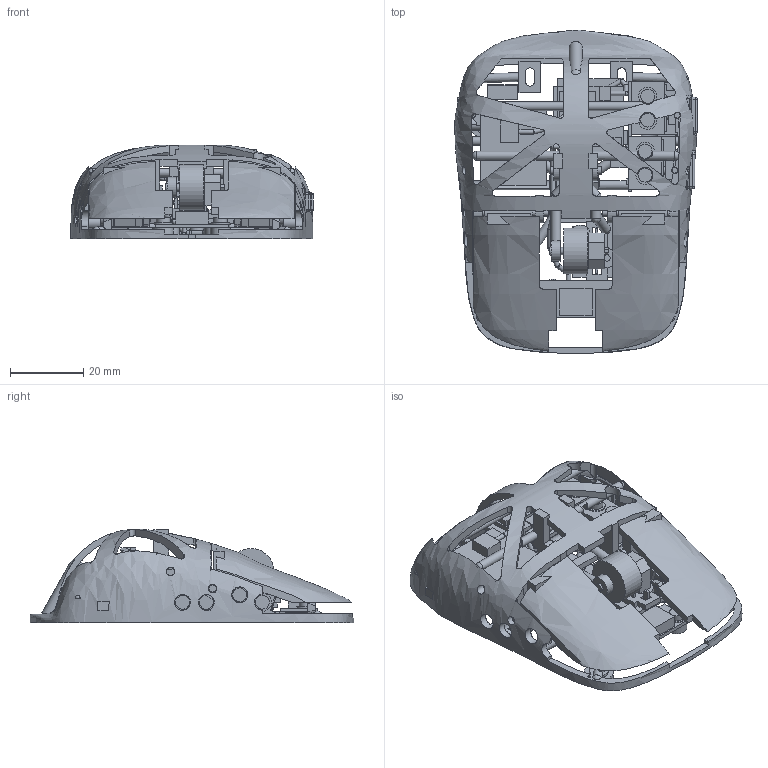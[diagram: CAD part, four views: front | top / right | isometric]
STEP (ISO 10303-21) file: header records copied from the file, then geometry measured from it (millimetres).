
FILE_DESCRIPTION(('Open CASCADE Model'),'2;1');
FILE_NAME('Open CASCADE Shape Model','2026-10-17T02:25:10',('Author'),( 'Open CASCADE'),'Open CASCADE STEP processor 7.9','Open CASCADE 7.9' ,'Unknown');
FILE_SCHEMA(('AUTOMOTIVE_DESIGN { 1 0 10303 214 1 1 1 1 }'));
Length unit declared in the file: millimetre
Products named in the file (99): R3_1_CUSTOM_ESTIMATED_LAYOUT; BODY; LEFT_KEY; RIGHT_KEY; SIDE_FRONT_KEY; SIDE_FRONT_KEY_SWITCH_CLAMP; SIDE_REAR_KEY; SIDE_REAR_KEY_SWITCH_CLAMP; WHEEL; WHEEL_CARRIER; LEFT_KEY_STEEL_PIN; LEFT_KEY_M2_SWITCH_1_BOLT; LEFT_KEY_M2_SWITCH_1_WASHER_NUT; LEFT_KEY_M2_SWITCH_1_WASHER_HEAD; LEFT_KEY_M2_SWITCH_1_NUT; LEFT_KEY_M2_SWITCH_2_BOLT; LEFT_KEY_M2_SWITCH_2_WASHER_NUT; LEFT_KEY_M2_SWITCH_2_WASHER_HEAD; LEFT_KEY_M2_SWITCH_2_NUT; SWITCH_LEFT; RIGHT_KEY_STEEL_PIN; RIGHT_KEY_M2_SWITCH_1_BOLT; RIGHT_KEY_M2_SWITCH_1_WASHER_NUT; RIGHT_KEY_M2_SWITCH_1_WASHER_HEAD; RIGHT_KEY_M2_SWITCH_1_NUT; RIGHT_KEY_M2_SWITCH_2_BOLT; RIGHT_KEY_M2_SWITCH_2_WASHER_NUT; RIGHT_KEY_M2_SWITCH_2_WASHER_HEAD; RIGHT_KEY_M2_SWITCH_2_NUT; SWITCH_RIGHT; SIDE_FRONT_KEY_CAPTURE_PIN; SIDE_FRONT_KEY_M2_SWITCH_1_BOLT; SIDE_FRONT_KEY_M2_SWITCH_1_WASHER_NUT; SIDE_FRONT_KEY_M2_SWITCH_1_WASHER_HEAD; SIDE_FRONT_KEY_M2_SWITCH_1_NUT; SIDE_FRONT_KEY_M2_SWITCH_2_BOLT; SIDE_FRONT_KEY_M2_SWITCH_2_WASHER_NUT; SIDE_FRONT_KEY_M2_SWITCH_2_WASHER_HEAD; SIDE_FRONT_KEY_M2_SWITCH_2_NUT; SWITCH_SIDE_FRONT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
Assembly tree (98 placements, depth 2):
  R3_1_CUSTOM_ESTIMATED_LAYOUT
    BODY
    LEFT_KEY
    RIGHT_KEY
    SIDE_FRONT_KEY
    SIDE_FRONT_KEY_SWITCH_CLAMP
    SIDE_REAR_KEY
    SIDE_REAR_KEY_SWITCH_CLAMP
    WHEEL
    WHEEL_CARRIER
    LEFT_KEY_STEEL_PIN
    LEFT_KEY_M2_SWITCH_1_BOLT
    LEFT_KEY_M2_SWITCH_1_WASHER_NUT
    LEFT_KEY_M2_SWITCH_1_WASHER_HEAD
    LEFT_KEY_M2_SWITCH_1_NUT
    LEFT_KEY_M2_SWITCH_2_BOLT
    LEFT_KEY_M2_SWITCH_2_WASHER_NUT
    LEFT_KEY_M2_SWITCH_2_WASHER_HEAD
    LEFT_KEY_M2_SWITCH_2_NUT
    SWITCH_LEFT
    RIGHT_KEY_STEEL_PIN
    RIGHT_KEY_M2_SWITCH_1_BOLT
    RIGHT_KEY_M2_SWITCH_1_WASHER_NUT
    RIGHT_KEY_M2_SWITCH_1_WASHER_HEAD
    RIGHT_KEY_M2_SWITCH_1_NUT
    RIGHT_KEY_M2_SWITCH_2_BOLT
    RIGHT_KEY_M2_SWITCH_2_WASHER_NUT
    RIGHT_KEY_M2_SWITCH_2_WASHER_HEAD
    RIGHT_KEY_M2_SWITCH_2_NUT
    SWITCH_RIGHT
    SIDE_FRONT_KEY_CAPTURE_PIN
    SIDE_FRONT_KEY_M2_SWITCH_1_BOLT
    SIDE_FRONT_KEY_M2_SWITCH_1_WASHER_NUT
    SIDE_FRONT_KEY_M2_SWITCH_1_WASHER_HEAD
    SIDE_FRONT_KEY_M2_SWITCH_1_NUT
    SIDE_FRONT_KEY_M2_SWITCH_2_BOLT
    SIDE_FRONT_KEY_M2_SWITCH_2_WASHER_NUT
    SIDE_FRONT_KEY_M2_SWITCH_2_WASHER_HEAD
    SIDE_FRONT_KEY_M2_SWITCH_2_NUT
    SWITCH_SIDE_FRONT
    SIDE_REAR_KEY_CAPTURE_PIN
    SIDE_REAR_KEY_M2_SWITCH_1_BOLT
    SIDE_REAR_KEY_M2_SWITCH_1_WASHER_NUT
    SIDE_REAR_KEY_M2_SWITCH_1_WASHER_HEAD
    SIDE_REAR_KEY_M2_SWITCH_1_NUT
    SIDE_REAR_KEY_M2_SWITCH_2_BOLT
    SIDE_REAR_KEY_M2_SWITCH_2_WASHER_NUT
    SIDE_REAR_KEY_M2_SWITCH_2_WASHER_HEAD
    SIDE_REAR_KEY_M2_SWITCH_2_NUT
    SWITCH_SIDE_REAR
    ENCODER_EC10E_HOUSING
    ENCODER_EC10E_ROTOR
    WHEEL_CARRIER_STEEL_PIN
    SWITCH_MIDDLE
    WHEEL_M2_SWITCH_1_BOLT
    WHEEL_M2_SWITCH_1_WASHER_NUT
    WHEEL_M2_SWITCH_1_WASHER_HEAD
    WHEEL_M2_SWITCH_1_NUT
    WHEEL_M2_SWITCH_2_BOLT
    WHEEL_M2_SWITCH_2_WASHER_NUT
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Bounding box: 66.18 x 88.24 x 25.48 mm (x, y, z)
Volume: 28265.8 mm3; surface area: 38263 mm2
Topology: 98 solids, 98 shells, 1826 faces, 4767 edges, 3081 vertices
Faces by surface type: plane 1320, cylinder 401, sphere 95, bspline 10
Full cylindrical faces by diameter (mm): 1 x4, 1.2 x11, 1.25 x6, 1.3 x12, 1.5 x2, 1.7 x6, 1.72 x2, 2 x40, 2.2 x24, 2.3 x2, 2.35 x13, 2.4 x30, 2.5 x3, 2.6 x11, 2.7 x7, 2.98 x1, 3.2 x3, 3.8 x14, 4.2 x2, 4.3 x3, 5 x22, 5.2 x4, 5.3 x2, 12.5 x1
Entity records: 300960 total; most frequent: CARTESIAN_POINT 207383, DIRECTION 16089, LINE 9549, VECTOR 9549, ORIENTED_EDGE 9418, PCURVE 9418, DEFINITIONAL_REPRESENTATION 9418, EDGE_CURVE 4709
